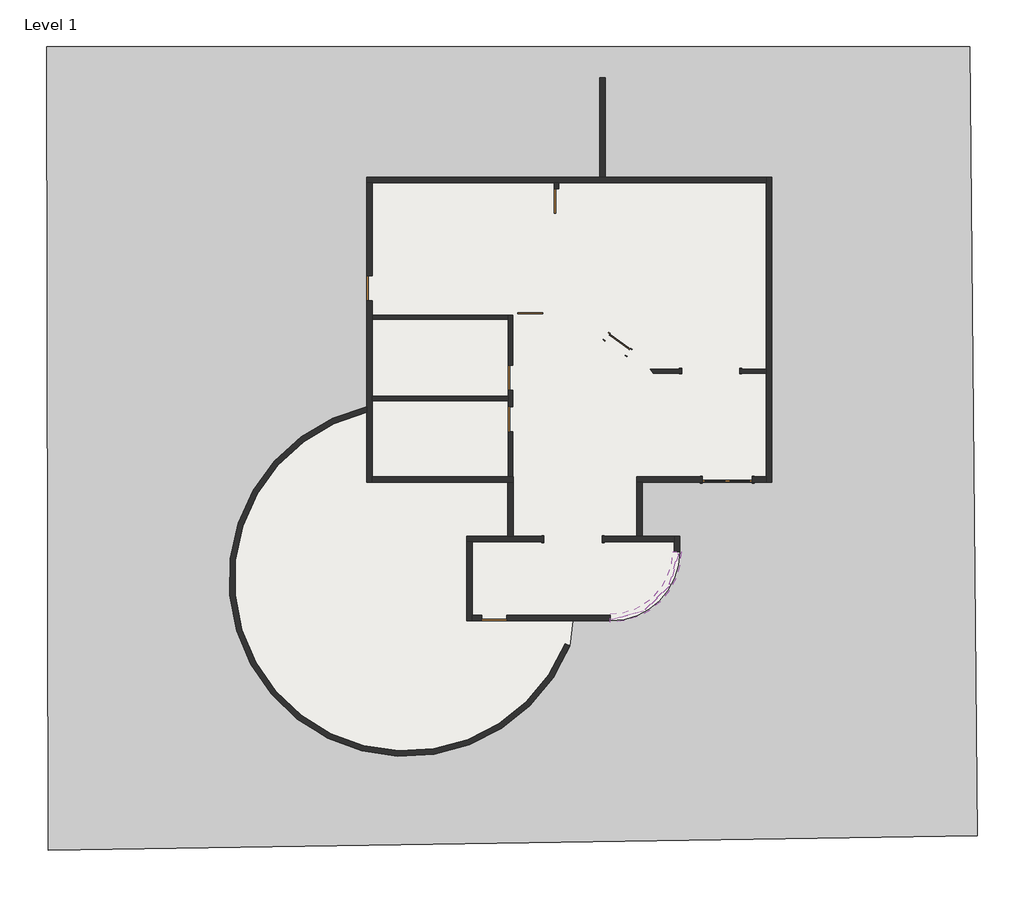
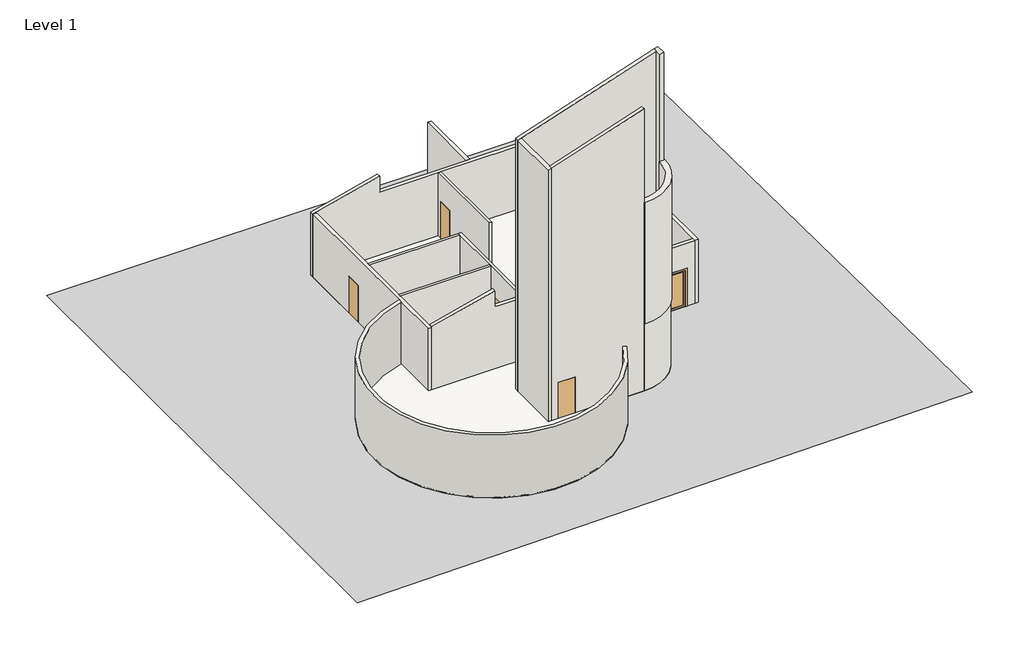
# One storey, incomplete: 20 walls, 15 plates, 10 doors, 2 slabs, 1 proxy.
"""IFC4 building model written with IfcOpenShell, lengths in millimetres."""

from ifc_helpers import new_model, si_unit, point, frame, frame_2d, origin, origin_with_axes, place, context, project, spatial, polyline, circle_curve, trimmed, segment, composite_curve, outline, extrude, faceted_brep, triangles, transform, mapped, element, save
from ifc_brep_helpers import plane_surface, revolved_surface, advanced_brep
from components import door_abc59dae, door_0c7c62f1, door_8492d491, door_09933694, door_9e9d7cf9, door_20d50eb6, door_5940df63, door_0cd0af3e, door_af9f61dc, glazed_panel_glazed_panel_e34de235, glazed_panel_glazed_panel_1afe2f89, glazed_panel_glazed_panel_e09dce83, glazed_panel_glazed_panel_caef8a16, glazed_panel_glazed_panel_920c02e9, glazed_panel_glazed_panel_3fd04a3e, glazed_panel_glazed_panel_1c80ef19, glazed_panel_glazed_panel_bbc6a8ac, glazed_panel_glazed_panel_b9808961, glazed_panel_glazed_panel_bbfcd834

model = new_model("IFC4")

# Units and contexts
model_context = context("Model", 3, world=origin())
ifc_project = project(units=[si_unit("LENGTHUNIT", "METRE", prefix="MILLI")], contexts=[model_context])

# Site, building, storey
site = spatial("IfcSite", under=ifc_project)
building = spatial("IfcBuilding", under=site)
storey = spatial("IfcBuildingStorey", under=building, Name="Level 1", Elevation=0.0)

# Proxy
placement = place(None, origin())
element("IfcBuildingElementProxy", 1, Name="Building Element Proxy", at=placement, inside=storey, context=model_context, shape_type="Tessellation", body=[
    triangles([(-135953.5620117, 52381.3840942, 0.0), (-102131.5706543, 52381.3840942, 0.0), (-101843.4859131, 23456.9612366, 0.0), (-135895.9469238, 22938.3952148, 0.0)], [[1, 4, 3], [3, 2, 1]], closed=False),
])

# Doors
door_shape = door_abc59dae(model_context)
element("IfcDoor", 2, ObjectType="Cased Opening : 80\"x80\"", at=placement, inside=storey, context=model_context, shape_type="MappedRepresentation", body=[
    mapped(door_shape, transform((-111618.973281, 40486.2173627, 0.0), x_axis=(-1.0, 0.0, 0.0), y_axis=(0.0, -1.0, 0.0), z_axis=(0.0, 0.0, 1.0))),
])
door_2_shape = door_0c7c62f1(model_context)
element("IfcDoor", 3, ObjectType="Cased Opening : 80\"x80\"", at=placement, inside=storey, context=model_context, shape_type="MappedRepresentation", body=[
    mapped(door_2_shape, transform((-116667.1316949, 34333.9831165, 0.0), x_axis=(1.0, 0.0, 0.0), y_axis=(0.0, 1.0, 0.0), z_axis=(0.0, 0.0, 1.0))),
])
door_3_shape = door_8492d491(model_context)
element("IfcDoor", 4, ObjectType="Sidelight-2 : 36\" x 84\"", at=placement, inside=storey, context=model_context, shape_type="MappedRepresentation", body=[
    mapped(door_3_shape, transform((-115254.6508825, 41622.9210741, 0.0), x_axis=(0.8121824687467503, -0.5834034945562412, 0.0), y_axis=(0.5834034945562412, 0.8121824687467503, 0.0), z_axis=(0.0, 0.0, 1.0))),
])
door_4_shape = door_09933694(model_context)
element("IfcDoor", 5, ObjectType="double glass : 72\"x84\"", at=placement, inside=storey, context=model_context, shape_type="MappedRepresentation", body=[
    mapped(door_4_shape, transform((-111009.373281, 36511.0683781, 0.0), x_axis=(-1.0, 0.0, 0.0), y_axis=(0.0, -1.0, 0.0), z_axis=(0.0, 0.0, 1.0))),
])
door_5_shape = door_9e9d7cf9(model_context)
element("IfcDoor", 6, ObjectType="single flush : 36\" x 80\"", at=placement, inside=storey, context=model_context, shape_type="MappedRepresentation", body=[
    mapped(door_5_shape, transform((-118953.1316949, 38721.5009545, 0.0), x_axis=(0.0, 1.0, 0.0), y_axis=(-1.0, 0.0, 0.0), z_axis=(0.0, 0.0, 1.0))),
])
door_6_shape = door_20d50eb6(model_context)
element("IfcDoor", 7, ObjectType="single flush : 36\" x 80\"", at=placement, inside=storey, context=model_context, shape_type="MappedRepresentation", body=[
    mapped(door_6_shape, transform((-118953.1316949, 40245.5009545, 0.0), x_axis=(0.0, -1.0, 0.0), y_axis=(1.0, 0.0, 0.0), z_axis=(0.0, 0.0, 1.0))),
])
door_7_shape = door_5940df63(model_context)
element("IfcDoor", 8, ObjectType="single flush : 36\" x 80\"", at=placement, inside=storey, context=model_context, shape_type="MappedRepresentation", body=[
    mapped(door_7_shape, transform((-118234.5304989, 42486.8443295, 0.0), x_axis=(0.9999952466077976, 0.003083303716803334, 0.0), y_axis=(-0.003083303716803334, 0.9999952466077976, 0.0), z_axis=(0.0, 0.0, 1.0))),
])
door_8_shape = door_0cd0af3e(model_context)
element("IfcDoor", 9, ObjectType="single flush : 36\" x 84\"", at=placement, inside=storey, context=model_context, shape_type="MappedRepresentation", body=[
    mapped(door_8_shape, transform((-117267.9340785, 46721.8683781, 0.0), x_axis=(0.0, 1.0, 0.0), y_axis=(-1.0, 0.0, 0.0), z_axis=(0.0, 0.0, 1.0))),
])
door_9_shape = door_af9f61dc(model_context)
element("IfcDoor", 10, ObjectType="single flush : 36\" x 84\"", at=placement, inside=storey, context=model_context, shape_type="MappedRepresentation", body=[
    mapped(door_9_shape, transform((-124115.773281, 43522.733531, 0.0), x_axis=(0.0, 1.0, 0.0), y_axis=(-1.0, 0.0, 0.0), z_axis=(0.0, 0.0, 1.0))),
])
element("IfcDoor", 11, ObjectType="single flush : 36\" x 84\"", at=placement, inside=storey, context=model_context, shape_type="MappedRepresentation", body=[
    mapped(door_9_shape, transform((-119543.773281, 31438.3831165, 0.0), x_axis=(-1.0, 0.0, 0.0), y_axis=(0.0, -1.0, 0.0), z_axis=(0.0, 0.0, 1.0))),
])

# Plates
glazed_panel_glazed_panel_shape = glazed_panel_glazed_panel_e34de235(model_context)
element("IfcPlate", 12, ObjectType="Glazed Panel : Glazed Panel", at=placement, inside=storey, context=model_context, shape_type="MappedRepresentation", body=[
    mapped(glazed_panel_glazed_panel_shape, transform((-113013.0390141, 33249.2329484, 3980.1696833), x_axis=(-0.2651033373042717, -0.9642200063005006, 0.0), y_axis=(0.9642200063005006, -0.2651033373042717, 0.0), z_axis=(0.0, 0.0, 1.0))),
])
element("IfcPlate", 13, ObjectType="Glazed Panel : Glazed Panel", at=placement, inside=storey, context=model_context, shape_type="MappedRepresentation", body=[
    mapped(glazed_panel_glazed_panel_shape, transform((-114667.9815268, 31594.2904358, 3980.1696833), x_axis=(-0.9642200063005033, -0.265103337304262, 0.0), y_axis=(0.265103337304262, -0.9642200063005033, 0.0), z_axis=(0.0, 0.0, 1.0))),
])
glazed_panel_glazed_panel_2_shape = glazed_panel_glazed_panel_1afe2f89(model_context)
element("IfcPlate", 14, ObjectType="Glazed Panel : Glazed Panel", at=placement, inside=storey, context=model_context, shape_type="MappedRepresentation", body=[
    mapped(glazed_panel_glazed_panel_2_shape, transform((-113624.4040579, 32205.6554795, 3980.1696833), x_axis=(-0.707106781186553, -0.7071067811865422, 0.0), y_axis=(0.7071067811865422, -0.707106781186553, 0.0), z_axis=(0.0, 0.0, 1.0))),
])
glazed_panel_glazed_panel_3_shape = glazed_panel_glazed_panel_e09dce83(model_context)
element("IfcPlate", 15, ObjectType="Glazed Panel : Glazed Panel", at=placement, inside=storey, context=model_context, shape_type="MappedRepresentation", body=[
    mapped(glazed_panel_glazed_panel_3_shape, transform((-113013.0390141, 33249.2329484, 8980.0900713), x_axis=(-0.2651033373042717, -0.9642200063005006, 0.0), y_axis=(0.9642200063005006, -0.2651033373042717, 0.0), z_axis=(0.0, 0.0, 1.0))),
])
element("IfcPlate", 16, ObjectType="Glazed Panel : Glazed Panel", at=placement, inside=storey, context=model_context, shape_type="MappedRepresentation", body=[
    mapped(glazed_panel_glazed_panel_3_shape, transform((-114667.9815268, 31594.2904358, 8980.0900713), x_axis=(-0.9642200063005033, -0.265103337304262, 0.0), y_axis=(0.265103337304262, -0.9642200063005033, 0.0), z_axis=(0.0, 0.0, 1.0))),
])
glazed_panel_glazed_panel_4_shape = glazed_panel_glazed_panel_caef8a16(model_context)
element("IfcPlate", 17, ObjectType="Glazed Panel : Glazed Panel", at=placement, inside=storey, context=model_context, shape_type="MappedRepresentation", body=[
    mapped(glazed_panel_glazed_panel_4_shape, transform((-113624.4040579, 32205.6554795, 8980.0900713), x_axis=(-0.707106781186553, -0.7071067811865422, 0.0), y_axis=(0.7071067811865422, -0.707106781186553, 0.0), z_axis=(0.0, 0.0, 1.0))),
])
glazed_panel_glazed_panel_5_shape = glazed_panel_glazed_panel_920c02e9(model_context)
element("IfcPlate", 18, ObjectType="Glazed Panel : Glazed Panel", at=placement, inside=storey, context=model_context, shape_type="MappedRepresentation", body=[
    mapped(glazed_panel_glazed_panel_5_shape, transform((-113013.0390141, 33249.2329484, 8464.4477899), x_axis=(-0.2651033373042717, -0.9642200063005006, 0.0), y_axis=(0.9642200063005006, -0.2651033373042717, 0.0), z_axis=(0.0, 0.0, 1.0))),
])
element("IfcPlate", 19, ObjectType="Glazed Panel : Glazed Panel", at=placement, inside=storey, context=model_context, shape_type="MappedRepresentation", body=[
    mapped(glazed_panel_glazed_panel_5_shape, transform((-114667.9815268, 31594.2904358, 8464.4477899), x_axis=(-0.9642200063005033, -0.265103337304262, 0.0), y_axis=(0.265103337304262, -0.9642200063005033, 0.0), z_axis=(0.0, 0.0, 1.0))),
])
glazed_panel_glazed_panel_6_shape = glazed_panel_glazed_panel_3fd04a3e(model_context)
element("IfcPlate", 20, ObjectType="Glazed Panel : Glazed Panel", at=placement, inside=storey, context=model_context, shape_type="MappedRepresentation", body=[
    mapped(glazed_panel_glazed_panel_6_shape, transform((-113624.4040579, 32205.6554795, 8464.4477899), x_axis=(-0.707106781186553, -0.7071067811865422, 0.0), y_axis=(0.7071067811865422, -0.707106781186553, 0.0), z_axis=(0.0, 0.0, 1.0))),
])
glazed_panel_glazed_panel_7_shape = glazed_panel_glazed_panel_1c80ef19(model_context)
element("IfcPlate", 21, ObjectType="Glazed Panel : Glazed Panel", at=placement, inside=storey, context=model_context, shape_type="MappedRepresentation", body=[
    mapped(glazed_panel_glazed_panel_7_shape, transform((-113013.0390141, 33249.2329484, 7916.8565312), x_axis=(-0.2651033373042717, -0.9642200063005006, 0.0), y_axis=(0.9642200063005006, -0.2651033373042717, 0.0), z_axis=(0.0, 0.0, 1.0))),
])
element("IfcPlate", 22, ObjectType="Glazed Panel : Glazed Panel", at=placement, inside=storey, context=model_context, shape_type="MappedRepresentation", body=[
    mapped(glazed_panel_glazed_panel_7_shape, transform((-114667.9815268, 31594.2904358, 7916.8565312), x_axis=(-0.9642200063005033, -0.265103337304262, 0.0), y_axis=(0.265103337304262, -0.9642200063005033, 0.0), z_axis=(0.0, 0.0, 1.0))),
])
glazed_panel_glazed_panel_8_shape = glazed_panel_glazed_panel_bbc6a8ac(model_context)
element("IfcPlate", 23, ObjectType="Glazed Panel : Glazed Panel", at=placement, inside=storey, context=model_context, shape_type="MappedRepresentation", body=[
    mapped(glazed_panel_glazed_panel_8_shape, transform((-113624.4040579, 32205.6554795, 7916.8565312), x_axis=(-0.707106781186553, -0.7071067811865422, 0.0), y_axis=(0.7071067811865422, -0.707106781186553, 0.0), z_axis=(0.0, 0.0, 1.0))),
])
glazed_panel_glazed_panel_9_shape = glazed_panel_glazed_panel_b9808961(model_context)
element("IfcPlate", 24, ObjectType="Glazed Panel : Glazed Panel", at=placement, inside=storey, context=model_context, shape_type="MappedRepresentation", body=[
    mapped(glazed_panel_glazed_panel_9_shape, transform((-113013.0390141, 33249.2329484, 7358.2440597), x_axis=(-0.2651033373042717, -0.9642200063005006, 0.0), y_axis=(0.9642200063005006, -0.2651033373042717, 0.0), z_axis=(0.0, 0.0, 1.0))),
])
element("IfcPlate", 25, ObjectType="Glazed Panel : Glazed Panel", at=placement, inside=storey, context=model_context, shape_type="MappedRepresentation", body=[
    mapped(glazed_panel_glazed_panel_9_shape, transform((-114667.9815268, 31594.2904358, 7358.2440597), x_axis=(-0.9642200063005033, -0.265103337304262, 0.0), y_axis=(0.265103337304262, -0.9642200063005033, 0.0), z_axis=(0.0, 0.0, 1.0))),
])
glazed_panel_glazed_panel_10_shape = glazed_panel_glazed_panel_bbfcd834(model_context)
element("IfcPlate", 26, ObjectType="Glazed Panel : Glazed Panel", at=placement, inside=storey, context=model_context, shape_type="MappedRepresentation", body=[
    mapped(glazed_panel_glazed_panel_10_shape, transform((-113624.4040579, 32205.6554795, 7358.2440597), x_axis=(-0.707106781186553, -0.7071067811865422, 0.0), y_axis=(0.7071067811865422, -0.707106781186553, 0.0), z_axis=(0.0, 0.0, 1.0))),
])

# Slabs
element("IfcSlab", 27, ObjectType="Floor 1", at=placement, inside=storey, context=model_context, shape_type="SweptSolid", body=[
    extrude(outline(composite_curve([segment(polyline([(-109383.773281, 47585.4683781), (-109383.773281, 36409.4683781), (-114127.1316949, 36409.4683781), (-114127.1316949, 34435.5831165), (-112755.5316949, 34435.5831165), (-112755.5316949, 33876.7831165)]), True, "CONTINUOUS"), segment(trimmed(circle_curve(frame_2d((-115295.5316949, 33876.7831165)), 2540.0), [point((-112755.5316949, 33876.7831165))], [point((-115295.5316949, 31336.7831165))], False, "CARTESIAN"), True, "CONTINUOUS"), segment(polyline([(-115295.5316949, 31336.7831165), (-120559.773281, 31336.7831165), (-120559.773281, 34435.5831165), (-119054.7316949, 34435.5831165), (-119054.7316949, 36409.4683781), (-124217.373281, 36409.4683781), (-124217.373281, 47585.4683781), (-109383.773281, 47585.4683781)]), True, "CONTINUOUS")], self_intersect=False)), frame((0.0, 0.0, -304.8), z_axis=(0.0, 0.0, 1.0), x_axis=(1.0, 0.0, 0.0)), (0.0, 0.0, 1.0), 304.8),
])
element("IfcSlab", 28, ObjectType="stone patio", at=placement, inside=storey, context=model_context, shape_type="SweptSolid", body=[
    extrude(outline(composite_curve([segment(trimmed(circle_curve(frame_2d((-122782.4144194, 32856.6246012)), 6482.8312117), [point((-116778.7062582, 30410.6914795))], [point((-124217.373281, 39178.6490859))], False, "CARTESIAN"), True, "CONTINUOUS"), segment(polyline([(-124217.373281, 39178.6490859), (-124217.373281, 36409.4683781), (-119054.7316949, 36409.4683781), (-119054.7316949, 34435.5831165), (-120559.773281, 34435.5831165), (-120559.773281, 31336.7831165), (-116679.6635874, 31336.7831165), (-116778.7062582, 30410.6914795)]), True, "CONTINUOUS")], self_intersect=False)), frame((0.0, 0.0, -254.0), z_axis=(0.0, 0.0, 1.0), x_axis=(1.0, 0.0, 0.0)), (0.0, 0.0, 1.0), 304.8),
])

# Walls
element("IfcWall", 29, ObjectType="8\" Block", at=placement, inside=storey, context=model_context, shape_type="SweptSolid", body=[
    extrude(outline(polyline([(-115484.535781, 51243.0683781), (-115484.535781, 47585.4683781), (-115678.210781, 47585.4683781), (-115678.210781, 51243.0683781), (-115484.535781, 51243.0683781)])), origin_with_axes(), (0.0, 0.0, 1.0), 3657.6),
])
element("IfcWall", 30, ObjectType="8\" Block", at=placement, inside=storey, context=model_context, shape_type="SweptSolid", body=[
    extrude(outline(composite_curve([segment(polyline([(-116953.3386603, 30495.404228), (-116773.8318696, 30422.6902835)]), True, "CONTINUOUS"), segment(trimmed(circle_curve(frame_2d((-122782.4144194, 32856.6246012)), 6482.8312117), [point((-116773.8318696, 30422.6902835))], [point((-124217.373281, 39178.6490859))], False, "CARTESIAN"), True, "CONTINUOUS"), segment(polyline([(-124217.373281, 39178.6490859), (-124217.373281, 38979.8899818)]), True, "CONTINUOUS"), segment(trimmed(circle_curve(frame_2d((-122782.4144194, 32856.6246012)), 6289.1562117), [point((-124217.373281, 38979.8899818))], [point((-116953.3386603, 30495.404228))], True, "CARTESIAN"), True, "CONTINUOUS")], self_intersect=False)), origin_with_axes(), (0.0, 0.0, 1.0), 3657.6),
])
element("IfcWall", 31, ObjectType="8\" Exterior", at=placement, inside=storey, context=model_context, shape_type="Brep", body=[
    faceted_brep([(-124217.373281, 47382.2683781, 0.0), (-124014.173281, 47382.2683781, 0.0), (-117344.1340785, 47382.2683781, 0.0), (-117191.7340785, 47382.2683781, 0.0), (-109586.973281, 47382.2683781, 0.0), (-109586.973281, 47382.2683781, 3657.6), (-117191.7340785, 47382.2683781, 3657.6), (-117344.1340785, 47382.2683781, 3657.6), (-120559.773281, 47382.2683781, 3657.6), (-120559.773281, 47382.2683781, 4572.0), (-124217.373281, 47382.2683781, 3657.6), (-124217.373281, 47585.4683781, 0.0), (-124217.373281, 47585.4683781, 3657.6), (-120559.773281, 47585.4683781, 4572.0), (-120559.773281, 47585.4683781, 3657.6), (-115678.210781, 47585.4683781, 3657.6), (-115484.535781, 47585.4683781, 3657.6), (-109586.973281, 47585.4683781, 3657.6), (-109586.973281, 47585.4683781, 0.0), (-115484.535781, 47585.4683781, 0.0), (-115678.210781, 47585.4683781, 0.0)], [[[0, 1, 2, 3, 4, 5, 6, 7, 8, 9, 10]], [[11, 12, 13, 14, 15, 16, 17, 18, 19, 20]], [[4, 3, 2, 1, 0, 11, 20, 19, 18]], [[0, 10, 12, 11]], [[5, 4, 18, 17]], [[8, 7, 6, 5, 17, 16, 15, 14]], [[8, 14, 13, 9]], [[10, 9, 13, 12]]]),
])
element("IfcWall", 32, ObjectType="8\" Exterior", at=placement, inside=storey, context=model_context, shape_type="Brep", body=[
    faceted_brep([(-124014.173281, 43979.933531, 2133.6), (-124014.173281, 43979.933531, 0.0), (-124014.173281, 47382.2683781, 0.0), (-124014.173281, 47382.2683781, 3657.6), (-124014.173281, 42532.133531, 3657.6), (-124014.173281, 42379.733531, 3657.6), (-124014.173281, 39559.7009545, 3657.6), (-124014.173281, 39407.3009545, 3657.6), (-124014.173281, 36409.4683781, 3657.6), (-124014.173281, 36409.4683781, 0.0), (-124014.173281, 36612.6683781, 0.0), (-124014.173281, 39407.3009545, 0.0), (-124014.173281, 39559.7009545, 0.0), (-124014.173281, 42379.733531, 0.0), (-124014.173281, 42532.133531, 0.0), (-124014.173281, 43065.533531, 0.0), (-124014.173281, 43065.533531, 2133.6), (-124217.373281, 47382.2683781, 0.0), (-124217.373281, 43979.933531, 0.0), (-124217.373281, 43979.933531, 2133.6), (-124217.373281, 43065.533531, 2133.6), (-124217.373281, 43065.533531, 0.0), (-124217.373281, 39178.6490859, 0.0), (-124217.373281, 38979.8899818, 0.0), (-124217.373281, 36409.4683781, 0.0), (-124217.373281, 36409.4683781, 3657.6), (-124217.373281, 38979.8899818, 3657.6), (-124217.373281, 39178.6490859, 3657.6), (-124217.373281, 47382.2683781, 3657.6)], [[[0, 1, 2, 3, 4, 5, 6, 7, 8, 9, 10, 11, 12, 13, 14, 15, 16]], [[17, 18, 19, 20, 21, 22, 23, 24, 25, 26, 27, 28]], [[2, 1, 18, 17]], [[15, 14, 13, 12, 11, 10, 9, 24, 23, 22, 21]], [[8, 7, 6, 5, 4, 3, 28, 27, 26, 25]], [[3, 2, 17, 28]], [[9, 8, 25, 24]], [[19, 18, 1, 0]], [[20, 19, 0, 16]], [[21, 20, 16, 15]]]),
])
element("IfcWall", 33, ObjectType="8\" Exterior", at=placement, inside=storey, context=model_context, shape_type="Brep", body=[
    faceted_brep([(-111923.773281, 36612.6683781, 2133.6), (-111923.773281, 36612.6683781, 0.0), (-114330.3316949, 36612.6683781, 0.0), (-114330.3316949, 36612.6683781, 3657.6), (-109586.973281, 36612.6683781, 3657.6), (-109586.973281, 36612.6683781, 0.0), (-110094.973281, 36612.6683781, 0.0), (-110094.973281, 36612.6683781, 2133.6), (-114330.3316949, 36409.4683781, 0.0), (-114127.1316949, 36409.4683781, 0.0), (-111923.773281, 36409.4683781, 0.0), (-111923.773281, 36409.4683781, 2133.6), (-110094.973281, 36409.4683781, 2133.6), (-110094.973281, 36409.4683781, 0.0), (-109586.973281, 36409.4683781, 0.0), (-109586.973281, 36409.4683781, 3657.6), (-114330.3316949, 36409.4683781, 3657.6)], [[[0, 1, 2, 3, 4, 5, 6, 7]], [[8, 9, 10, 11, 12, 13, 14, 15, 16]], [[2, 1, 10, 9, 8]], [[6, 5, 14, 13]], [[4, 3, 16, 15]], [[5, 4, 15, 14]], [[3, 2, 8, 16]], [[11, 10, 1, 0]], [[12, 11, 0, 7]], [[13, 12, 7, 6]]]),
])
element("IfcWall", 34, ObjectType="8\" Exterior", at=placement, inside=storey, context=model_context, shape_type="Brep", body=[
    faceted_brep([(-109586.973281, 47585.4683781, 0.0), (-109586.973281, 47382.2683781, 0.0), (-109586.973281, 40562.4173627, 0.0), (-109586.973281, 40410.0173627, 0.0), (-109586.973281, 36612.6683781, 0.0), (-109586.973281, 36409.4683781, 0.0), (-109586.973281, 36409.4683781, 3657.6), (-109586.973281, 36612.6683781, 3657.6), (-109586.973281, 39559.0683781, 3657.6), (-109586.973281, 39660.6683781, 3657.6), (-109586.973281, 39660.6683781, 3352.8), (-109586.973281, 44639.0683781, 3352.8), (-109586.973281, 44639.0683781, 3657.6), (-109586.973281, 44740.6683781, 3657.6), (-109586.973281, 47382.2683781, 3657.6), (-109586.973281, 47585.4683781, 3657.6), (-109383.773281, 47585.4683781, 0.0), (-109383.773281, 47585.4683781, 3657.6), (-109383.773281, 47382.2683781, 3657.6), (-109383.773281, 44740.6683781, 3657.6), (-109383.773281, 44639.0683781, 3657.6), (-109383.773281, 44639.0683781, 3352.8), (-109383.773281, 39660.6683781, 3352.8), (-109383.773281, 39660.6683781, 3657.6), (-109383.773281, 39559.0683781, 3657.6), (-109383.773281, 36409.4683781, 3657.6), (-109383.773281, 36409.4683781, 0.0)], [[[0, 1, 2, 3, 4, 5, 6, 7, 8, 9, 10, 11, 12, 13, 14, 15]], [[16, 17, 18, 19, 20, 21, 22, 23, 24, 25, 26]], [[5, 4, 3, 2, 1, 0, 16, 26]], [[9, 8, 7, 6, 25, 24, 23]], [[10, 9, 23, 22]], [[11, 10, 22, 21]], [[12, 11, 21, 20]], [[15, 14, 13, 12, 20, 19, 18, 17]], [[0, 15, 17, 16]], [[6, 5, 26, 25]]]),
])
element("IfcWall", 35, ObjectType="8\" Exterior", at=placement, inside=storey, context=model_context, shape_type="Brep", body=[
    faceted_brep([(-115600.3316949, 34232.3831165, 2133.6), (-115600.3316949, 34232.3831165, 0.0), (-112958.7316949, 34232.3831165, 0.0), (-112958.7316949, 34232.3831165, 17164.0805287), (-120356.573281, 34232.3831165, 14698.1333333), (-120559.773281, 34232.3831165, 14630.4), (-120559.773281, 34232.3831165, 0.0), (-120356.573281, 34232.3831165, 0.0), (-117733.9316949, 34232.3831165, 0.0), (-117733.9316949, 34232.3831165, 2133.6), (-114087.0972968, 34232.3831165, 10972.8), (-114087.0972968, 34232.3831165, 3657.6), (-118851.5316949, 34232.3831165, 3657.6), (-118851.5316949, 34232.3831165, 10972.8), (-112958.7316949, 34435.5831165, 0.0), (-114127.1316949, 34435.5831165, 0.0), (-114330.3316949, 34435.5831165, 0.0), (-115600.3316949, 34435.5831165, 0.0), (-115600.3316949, 34435.5831165, 2133.6), (-117733.9316949, 34435.5831165, 2133.6), (-117733.9316949, 34435.5831165, 0.0), (-118851.5316949, 34435.5831165, 0.0), (-119054.7316949, 34435.5831165, 0.0), (-120559.773281, 34435.5831165, 0.0), (-120559.773281, 34435.5831165, 14630.4), (-112958.7316949, 34435.5831165, 17164.0805287), (-114087.0972968, 34435.5831165, 10972.8), (-118851.5316949, 34435.5831165, 10972.8), (-118851.5316949, 34435.5831165, 3657.6), (-114087.0972968, 34435.5831165, 3657.6)], [[[0, 1, 2, 3, 4, 5, 6, 7, 8, 9], [10, 11, 12, 13]], [[14, 15, 16, 17, 18, 19, 20, 21, 22, 23, 24, 25], [26, 27, 28, 29]], [[2, 1, 17, 16, 15, 14]], [[8, 7, 6, 23, 22, 21, 20]], [[11, 10, 26, 29]], [[12, 11, 29, 28]], [[13, 12, 28, 27]], [[10, 13, 27, 26]], [[6, 5, 24, 23]], [[3, 2, 14, 25]], [[5, 4, 3, 25, 24]], [[18, 17, 1, 0]], [[19, 18, 0, 9]], [[20, 19, 9, 8]]]),
])
element("IfcWall", 36, ObjectType="8\" Exterior", at=placement, inside=storey, context=model_context, shape_type="Brep", body=[
    faceted_brep([(-120356.573281, 31336.7831165, 0.0), (-120356.573281, 31539.9831165, 0.0), (-120356.573281, 34232.3831165, 0.0), (-120356.573281, 34232.3831165, 14698.1333333), (-120356.573281, 31539.9831165, 14698.1333333), (-120356.573281, 31336.7831165, 14698.1333333), (-120559.773281, 31336.7831165, 0.0), (-120559.773281, 31336.7831165, 14630.4), (-120559.773281, 34232.3831165, 14630.4), (-120559.773281, 34232.3831165, 0.0)], [[[0, 1, 2, 3, 4, 5]], [[6, 7, 8, 9]], [[2, 1, 0, 6, 9]], [[0, 5, 7, 6]], [[3, 2, 9, 8]], [[5, 4, 3, 8, 7]]]),
])
element("IfcWall", 37, ObjectType="8\" Exterior", at=placement, inside=storey, context=model_context, shape_type="Brep", body=[
    faceted_brep([(-115295.5316949, 31539.9831165, 0.0), (-115295.5316949, 31539.9831165, 3916.6696833), (-115295.5316949, 31539.9831165, 10972.8), (-115295.5316949, 31539.9831165, 16385.1471954), (-115295.5316949, 31336.7831165, 16385.1471954), (-115295.5316949, 31336.7831165, 10972.8), (-115295.5316949, 31336.7831165, 3916.6696833), (-115295.5316949, 31336.7831165, 0.0), (-120000.973281, 31539.9831165, 2133.6), (-120000.973281, 31539.9831165, 0.0), (-120356.573281, 31539.9831165, 0.0), (-120356.573281, 31539.9831165, 14698.1333333), (-119086.573281, 31539.9831165, 0.0), (-119086.573281, 31539.9831165, 2133.6), (-120356.573281, 31336.7831165, 0.0), (-120000.973281, 31336.7831165, 0.0), (-120000.973281, 31336.7831165, 2133.6), (-119086.573281, 31336.7831165, 2133.6), (-119086.573281, 31336.7831165, 0.0), (-120356.573281, 31336.7831165, 14698.1333333)], [[[0, 1, 2, 3, 4, 5, 6, 7]], [[8, 9, 10, 11, 3, 2, 1, 0, 12, 13]], [[14, 15, 16, 17, 18, 7, 6, 5, 4, 19]], [[10, 9, 15, 14]], [[12, 0, 7, 18]], [[11, 10, 14, 19]], [[3, 11, 19, 4]], [[16, 15, 9, 8]], [[17, 16, 8, 13]], [[18, 17, 13, 12]]]),
])
element("IfcWall", 38, ObjectType="8\" Exterior", at=placement, inside=storey, context=model_context, shape_type="Brep", body=[
    faceted_brep([(-112958.7316949, 34435.5831165, 0.0), (-112958.7316949, 34232.3831165, 0.0), (-112958.7316949, 33876.7831165, 0.0), (-112958.7316949, 33876.7831165, 3916.6696833), (-112958.7316949, 33876.7831165, 10972.8), (-112958.7316949, 33876.7831165, 17164.0805287), (-112958.7316949, 34232.3831165, 17164.0805287), (-112958.7316949, 34435.5831165, 17164.0805287), (-112755.5316949, 34435.5831165, 0.0), (-112755.5316949, 34435.5831165, 17231.813862), (-112755.5316949, 33876.7831165, 17231.813862), (-112755.5316949, 33876.7831165, 10972.8), (-112755.5316949, 33876.7831165, 3916.6696833), (-112755.5316949, 33876.7831165, 0.0)], [[[0, 1, 2, 3, 4, 5, 6, 7]], [[8, 9, 10, 11, 12, 13]], [[2, 1, 0, 8, 13]], [[5, 4, 3, 2, 13, 12, 11, 10]], [[0, 7, 9, 8]], [[7, 6, 5, 10, 9]]]),
])
element("IfcWall", 39, ObjectType="8\" Exterior", at=placement, inside=storey, context=model_context, shape_type="Brep", body=[
    faceted_brep([(-118851.5316949, 34435.5831165, 0.0), (-118851.5316949, 36409.4683781, 0.0), (-118851.5316949, 36409.4683781, 3657.6), (-118851.5316949, 36409.4683781, 10972.8), (-118851.5316949, 34435.5831165, 10972.8), (-118851.5316949, 34435.5831165, 3657.6), (-119054.7316949, 34435.5831165, 0.0), (-119054.7316949, 34435.5831165, 10972.8), (-119054.7316949, 36409.4683781, 10972.8), (-119054.7316949, 36409.4683781, 0.0)], [[[0, 1, 2, 3, 4, 5]], [[6, 7, 8, 9]], [[1, 0, 6, 9]], [[4, 3, 8, 7]], [[0, 5, 4, 7, 6]], [[3, 2, 1, 9, 8]]]),
])
element("IfcWall", 40, ObjectType="8\" Exterior", at=placement, inside=storey, context=model_context, shape_type="Brep", body=[
    faceted_brep([(-114127.1316949, 34435.5831165, 0.0), (-114127.1316949, 36409.4683781, 0.0), (-114127.1316949, 36409.4683781, 10972.8), (-114127.1316949, 34435.5831165, 10972.8), (-114330.3316949, 34435.5831165, 0.0), (-114330.3316949, 34435.5831165, 10972.8), (-114330.3316949, 36409.4683781, 10972.8), (-114330.3316949, 36409.4683781, 3657.6), (-114330.3316949, 36409.4683781, 0.0)], [[[0, 1, 2, 3]], [[4, 5, 6, 7, 8]], [[1, 0, 4, 8]], [[3, 2, 6, 5]], [[0, 3, 5, 4]], [[2, 1, 8, 7, 6]]]),
])
element("IfcWall", 41, ObjectType="8\" Exterior", at=placement, inside=storey, context=model_context, shape_type="SweptSolid", body=[
    extrude(outline(composite_curve([segment(polyline([(-115295.5316949, 31336.7831165), (-115295.5316949, 31539.9831165)]), True, "CONTINUOUS"), segment(trimmed(circle_curve(frame_2d((-115295.5316949, 33876.7831165)), 2336.8), [point((-115295.5316949, 31539.9831165))], [point((-112958.7316949, 33876.7831165))], True, "CARTESIAN"), True, "CONTINUOUS"), segment(polyline([(-112958.7316949, 33876.7831165), (-112755.5316949, 33876.7831165)]), True, "CONTINUOUS"), segment(trimmed(circle_curve(frame_2d((-115295.5316949, 33876.7831165)), 2540.0), [point((-112755.5316949, 33876.7831165))], [point((-115295.5316949, 31336.7831165))], False, "CARTESIAN"), True, "CONTINUOUS")], self_intersect=False)), origin_with_axes(), (0.0, 0.0, 1.0), 3916.6696833),
])
element("IfcWall", 42, ObjectType="8\" Exterior", at=placement, inside=storey, context=model_context, shape_type="Brep", body=[
    faceted_brep([(-118851.5316949, 36612.6683781, 0.0), (-118876.9316949, 36612.6683781, 0.0), (-119029.3316949, 36612.6683781, 0.0), (-124014.173281, 36612.6683781, 0.0), (-124014.173281, 36612.6683781, 3708.4), (-120559.773281, 36612.6683781, 4572.0), (-120559.773281, 36612.6683781, 3657.6), (-120356.573281, 36612.6683781, 3657.6), (-119029.3316949, 36612.6683781, 3657.6), (-118876.9316949, 36612.6683781, 3657.6), (-118851.5316949, 36612.6683781, 3657.6), (-118851.5316949, 36409.4683781, 0.0), (-118851.5316949, 36409.4683781, 3657.6), (-120356.573281, 36409.4683781, 3657.6), (-120559.773281, 36409.4683781, 3657.6), (-120559.773281, 36409.4683781, 4572.0), (-124014.173281, 36409.4683781, 3708.4), (-124014.173281, 36409.4683781, 3657.6), (-124014.173281, 36409.4683781, 0.0), (-119054.7316949, 36409.4683781, 0.0)], [[[0, 1, 2, 3, 4, 5, 6, 7, 8, 9, 10]], [[11, 12, 13, 14, 15, 16, 17, 18, 19]], [[3, 2, 1, 0, 11, 19, 18]], [[4, 3, 18, 17, 16]], [[0, 10, 12, 11]], [[10, 9, 8, 7, 6, 14, 13, 12]], [[14, 6, 5, 15]], [[5, 4, 16, 15]]]),
])
element("IfcWall", 43, ObjectType="Curtain Wall 1", at=placement, inside=storey, context=model_context, shape_type="SweptSolid", body=[
    extrude(outline(composite_curve([segment(polyline([(-115295.5316949, 31285.9831165), (-115295.5316949, 31590.7831165)]), True, "CONTINUOUS"), segment(trimmed(circle_curve(frame_2d((-115295.5316949, 33876.7831165)), 2286.0), [point((-115295.5316949, 31590.7831165))], [point((-113009.5316949, 33876.7831165))], True, "CARTESIAN"), True, "CONTINUOUS"), segment(polyline([(-113009.5316949, 33876.7831165), (-112704.7316949, 33876.7831165)]), True, "CONTINUOUS"), segment(trimmed(circle_curve(frame_2d((-115295.5316949, 33876.7831165)), 2590.8), [point((-112704.7316949, 33876.7831165))], [point((-115295.5316949, 31285.9831165))], False, "CARTESIAN"), True, "CONTINUOUS")], self_intersect=False)), frame((0.0, 0.0, 3916.6696833), z_axis=(0.0, 0.0, 1.0), x_axis=(1.0, 0.0, 0.0)), (0.0, 0.0, 1.0), 7056.1303167),
])
element("IfcWall", 44, ObjectType="Interior 6\" full ht.", at=placement, inside=storey, context=model_context, shape_type="Brep", body=[
    faceted_brep([(-118876.9316949, 39178.7009545, 0.0), (-118876.9316949, 39788.3009545, 0.0), (-118876.9316949, 39788.3009545, 2032.0), (-118876.9316949, 40702.7009545, 2032.0), (-118876.9316949, 40702.7009545, 0.0), (-118876.9316949, 42316.9533396, 0.0), (-118876.9316949, 42532.133531, 0.0), (-118876.9316949, 42532.133531, 3657.6), (-118876.9316949, 42316.9533396, 3657.6), (-118876.9316949, 36612.6683781, 3657.6), (-118876.9316949, 36612.6683781, 0.0), (-118876.9316949, 38264.3009545, 0.0), (-118876.9316949, 38264.3009545, 2032.0), (-118876.9316949, 39178.7009545, 2032.0), (-119029.3316949, 39788.3009545, 2032.0), (-119029.3316949, 39788.3009545, 0.0), (-119029.3316949, 39559.7009545, 0.0), (-119029.3316949, 39407.3009545, 0.0), (-119029.3316949, 39178.7009545, 0.0), (-119029.3316949, 39178.7009545, 2032.0), (-119029.3316949, 38264.3009545, 2032.0), (-119029.3316949, 38264.3009545, 0.0), (-119029.3316949, 36612.6683781, 0.0), (-119029.3316949, 36612.6683781, 3657.6), (-119029.3316949, 39407.3009545, 3657.6), (-119029.3316949, 39559.7009545, 3657.6), (-119029.3316949, 42379.733531, 3657.6), (-119029.3316949, 42532.133531, 3657.6), (-119029.3316949, 42532.133531, 0.0), (-119029.3316949, 42379.733531, 0.0), (-119029.3316949, 40702.7009545, 0.0), (-119029.3316949, 40702.7009545, 2032.0)], [[[0, 1, 2, 3, 4, 5, 6, 7, 8, 9, 10, 11, 12, 13]], [[14, 15, 16, 17, 18, 19, 20, 21, 22, 23, 24, 25, 26, 27, 28, 29, 30, 31]], [[18, 17, 16, 15, 1, 0]], [[11, 10, 22, 21]], [[30, 29, 28, 6, 5, 4]], [[9, 8, 7, 27, 26, 25, 24, 23]], [[7, 6, 28, 27]], [[10, 9, 23, 22]], [[19, 18, 0, 13]], [[20, 19, 13, 12]], [[21, 20, 12, 11]], [[2, 1, 15, 14]], [[3, 2, 14, 31]], [[4, 3, 31, 30]]]),
])
element("IfcWall", 45, ObjectType="Interior 6\" full ht.", at=placement, inside=storey, context=model_context, shape_type="SweptSolid", body=[
    extrude(outline(polyline([(-124014.173281, 42532.133531), (-119029.3316949, 42532.133531), (-119029.3316949, 42379.733531), (-124014.173281, 42379.733531), (-124014.173281, 42532.133531)])), origin_with_axes(), (0.0, 0.0, 1.0), 3657.6),
])
element("IfcWall", 46, ObjectType="Interior 6\" full ht.", at=placement, inside=storey, context=model_context, shape_type="SweptSolid", body=[
    extrude(outline(polyline([(-124014.173281, 39559.7009545), (-119029.3316949, 39559.7009545), (-119029.3316949, 39407.3009545), (-124014.173281, 39407.3009545), (-124014.173281, 39559.7009545)])), origin_with_axes(), (0.0, 0.0, 1.0), 3657.6),
])
element("IfcWall", 47, ObjectType="Interior 6\" full ht.", at=placement, inside=storey, context=model_context, shape_type="AdvancedBrep", body=[
    advanced_brep(
    [(-117191.7340785, 47179.0683781, 2133.6), (-117191.7340785, 47179.0683781, 0.0), (-117191.7340785, 47382.2683781, 0.0), (-117191.7340785, 47382.2683781, 3657.6), (-117191.7340785, 42558.8920917, 3657.6), (-117191.7340785, 42558.8920917, 0.0), (-117191.7340785, 46264.6683781, 0.0), (-117191.7340785, 46264.6683781, 2133.6), (-117344.1340785, 47382.2683781, 0.0), (-117344.1340785, 47179.0683781, 0.0), (-117344.1340785, 47179.0683781, 2133.6), (-117344.1340785, 46264.6683781, 2133.6), (-117344.1340785, 46264.6683781, 0.0), (-117344.1340785, 42584.9578752, 0.0), (-117344.1340785, 42584.9578752, 3657.6), (-117344.1340785, 47382.2683781, 3657.6)],
    [
        (0, 1),
        (1, 2),
        (2, 3),
        (3, 4),
        (4, 5),
        (5, 6),
        (6, 7),
        (7, 0),
        (8, 9),
        (9, 10),
        (10, 11),
        (11, 12),
        (12, 13),
        (13, 14),
        (14, 15),
        (15, 8),
        (1, 9),
        (8, 2),
        (5, 13, circle_curve(frame((-118217.6715537, 37019.0517647, 0.0), z_axis=(0.0, 0.0, 1.0), x_axis=(1.0, 0.0, 0.0)), 5634.0375)),
        (12, 6),
        (3, 15),
        (14, 4, circle_curve(frame((-118217.6715537, 37019.0517647, 3657.6), z_axis=(0.0, 0.0, -1.0), x_axis=(1.0, 0.0, 0.0)), 5634.0375)),
        (0, 10),
        (7, 11),
    ],
    [
        plane_surface(frame((-117191.7340785, 42271.3250503, 0.0), z_axis=(1.0, 0.0, 0.0), x_axis=(0.0, 1.0, 0.0))),
        plane_surface(frame((-117344.1340785, 42271.3250503, 0.0), z_axis=(-1.0, 0.0, 0.0), x_axis=(0.0, -1.0, 0.0))),
        plane_surface(frame((-117191.7340785, 42422.6231474, 0.0), z_axis=(0.0, 0.0, -1.0), x_axis=(-1.0, 0.0, 0.0))),
        plane_surface(frame((-117191.7340785, 47483.8683781, 3657.6), z_axis=(0.0, 0.0, 1.0), x_axis=(-1.0, 0.0, 0.0))),
        revolved_surface(polyline([(-112583.63405369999, 37019.0517647, 3657.6), (-112583.63405369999, 37019.0517647, 0.0)]), (-118217.6715537, 37019.0517647, 0.0), (0.0, 0.0, 1.0)),
        plane_surface(frame((-125792.173281, 47382.2683781, 0.0), z_axis=(0.0, 1.0, 0.0), x_axis=(1.0, 0.0, 0.0))),
        plane_surface(frame((-117344.1340785, 47179.0683781, 0.0), z_axis=(0.0, -1.0, 0.0), x_axis=(1.0, 0.0, 0.0))),
        plane_surface(frame((-117344.1340785, 47179.0683781, 2133.6), z_axis=(0.0, 0.0, -1.0), x_axis=(1.0, 0.0, 0.0))),
        plane_surface(frame((-117344.1340785, 46264.6683781, 2133.6), z_axis=(0.0, 1.0, 0.0), x_axis=(1.0, 0.0, 0.0))),
    ],
    [
        (0, [[1, 2, 3, 4, 5, 6, 7, 8]]),
        (1, [[9, 10, 11, 12, 13, 14, 15, 16]]),
        (2, [[-2, 17, -9, 18]]),
        (2, [[-6, 19, -13, 20]]),
        (3, [[-4, 21, -15, 22]]),
        (4, [[-5, -22, -14, -19]]),
        (5, [[-3, -18, -16, -21]]),
        (6, [[-10, -17, -1, 23]]),
        (7, [[-11, -23, -8, 24]]),
        (8, [[-12, -24, -7, -20]]),
    ],
),
])
element("IfcWall", 48, ObjectType="Interior 6\" full ht.", at=placement, inside=storey, context=model_context, shape_type="AdvancedBrep", body=[
    advanced_brep(
    [(-113718.3681782, 40410.0173627, 0.0), (-112685.773281, 40410.0173627, 0.0), (-112685.773281, 40410.0173627, 2133.6), (-110552.173281, 40410.0173627, 2133.6), (-110552.173281, 40410.0173627, 0.0), (-109586.973281, 40410.0173627, 0.0), (-109586.973281, 40410.0173627, 3657.6), (-113718.3681782, 40410.0173627, 3657.6), (-112685.773281, 40562.4173627, 2133.6), (-112685.773281, 40562.4173627, 0.0), (-113837.381747, 40562.4173627, 0.0), (-113837.381747, 40562.4173627, 3657.6), (-109586.973281, 40562.4173627, 3657.6), (-109586.973281, 40562.4173627, 0.0), (-110552.173281, 40562.4173627, 0.0), (-110552.173281, 40562.4173627, 2133.6)],
    [
        (0, 1),
        (1, 2),
        (2, 3),
        (3, 4),
        (4, 5),
        (5, 6),
        (6, 7),
        (7, 0),
        (8, 9),
        (9, 10),
        (10, 11),
        (11, 12),
        (12, 13),
        (13, 14),
        (14, 15),
        (15, 8),
        (9, 1),
        (0, 10, circle_curve(frame((-118217.6715537, 37019.0517647, 0.0), z_axis=(0.0, 0.0, 1.0), x_axis=(1.0, 0.0, 0.0)), 5634.0375)),
        (13, 5),
        (4, 14),
        (6, 12),
        (11, 7, circle_curve(frame((-118217.6715537, 37019.0517647, 3657.6), z_axis=(0.0, 0.0, -1.0), x_axis=(1.0, 0.0, 0.0)), 5634.0375)),
        (8, 2),
        (15, 3),
    ],
    [
        plane_surface(frame((-114228.7316949, 40410.0173627, 0.0), z_axis=(0.0, -1.0, 0.0), x_axis=(1.0, 0.0, 0.0))),
        plane_surface(frame((-114228.7316949, 40562.4173627, 0.0), z_axis=(0.0, 1.0, 0.0), x_axis=(-1.0, 0.0, 0.0))),
        plane_surface(frame((-113965.6899361, 40410.0173627, 0.0), z_axis=(0.0, 0.0, -1.0), x_axis=(0.0, 1.0, 0.0))),
        plane_surface(frame((-109485.373281, 40410.0173627, 3657.6), z_axis=(0.0, 0.0, 1.0), x_axis=(0.0, 1.0, 0.0))),
        revolved_surface(polyline([(-112583.63405369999, 37019.0517647, 3657.6), (-112583.63405369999, 37019.0517647, 0.0)]), (-118217.6715537, 37019.0517647, 0.0), (0.0, 0.0, 1.0)),
        plane_surface(frame((-109586.973281, 47545.7259026, 0.0), z_axis=(1.0, 0.0, 0.0), x_axis=(0.0, -1.0, 0.0))),
        plane_surface(frame((-112685.773281, 40410.0173627, 0.0), z_axis=(1.0, 0.0, 0.0), x_axis=(0.0, 1.0, 0.0))),
        plane_surface(frame((-112685.773281, 40410.0173627, 2133.6), z_axis=(0.0, 0.0, -1.0), x_axis=(0.0, 1.0, 0.0))),
        plane_surface(frame((-110552.173281, 40410.0173627, 2133.6), z_axis=(-1.0, 0.0, 0.0), x_axis=(0.0, 1.0, 0.0))),
    ],
    [
        (0, [[1, 2, 3, 4, 5, 6, 7, 8]]),
        (1, [[9, 10, 11, 12, 13, 14, 15, 16]]),
        (2, [[-10, 17, -1, 18]]),
        (2, [[-14, 19, -5, 20]]),
        (3, [[-7, 21, -12, 22]]),
        (4, [[-8, -22, -11, -18]]),
        (5, [[-6, -19, -13, -21]]),
        (6, [[-2, -17, -9, 23]]),
        (7, [[-3, -23, -16, 24]]),
        (8, [[-4, -24, -15, -20]]),
    ],
),
])

save(model, "model.ifc")
